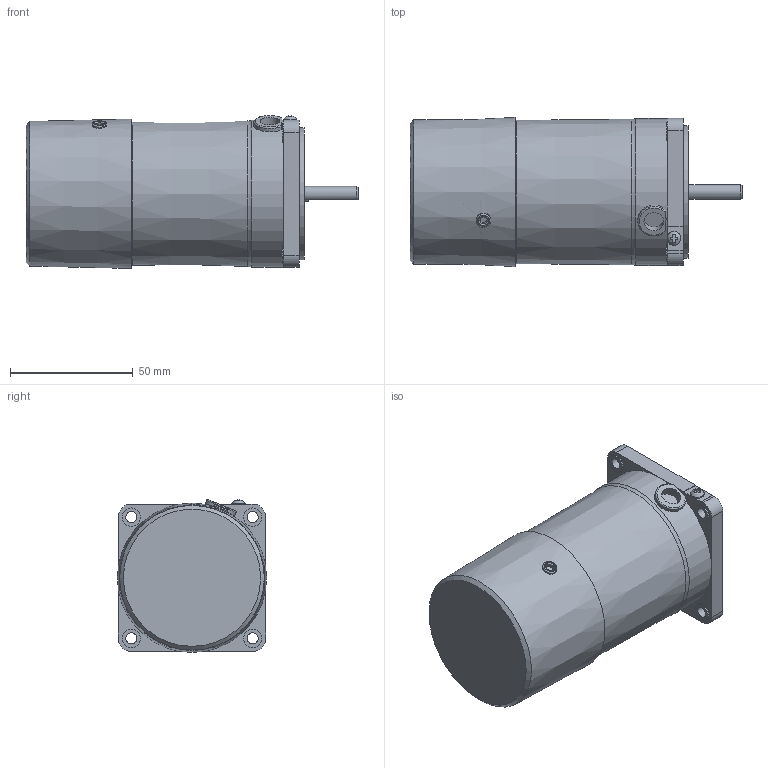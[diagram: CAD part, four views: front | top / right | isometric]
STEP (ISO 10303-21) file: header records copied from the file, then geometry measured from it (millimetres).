
FILE_DESCRIPTION(/* description */ (''),/* implementation_level */ '2;1');
FILE_NAME(/* name */ 'E:\도면작업\2016\0704) 미주향 SG 도면\3D MOTOR\ELECTROMAGNETIC BRAKE\SG6R06D_-E.stp',/* time_stamp */ '2017-03-21T13:49:40+09:00',/* author */ ('jy-jung'),/* organization */ (''),/* preprocessor_version */ 'ST-DEVELOPER v15.6',/* originating_system */ 'Autodesk Inventor 2015',/* authorisation */ '');
FILE_SCHEMA (('AUTOMOTIVE_DESIGN { 1 0 10303 214 3 1 1 }'));
Length unit declared in the file: millimetre
Products named in the file (1): 부품23
Bounding box: 135.5 x 60.94 x 62.38 mm (x, y, z)
Volume: 313966.3 mm3; surface area: 31240.6 mm2
Topology: 1 solids, 3 shells, 115 faces, 290 edges, 190 vertices
Faces by surface type: plane 68, cylinder 37, cone 5, torus 4, bspline 1
Full cylindrical faces by diameter (mm): 3.1 x1, 4.5 x4, 4.6 x1, 5 x1, 5.6 x1, 6 x2, 7.5 x4, 8 x1, 10.1 x1, 25 x1, 54 x1, 58.5 x1, 60 x1
Entity records: 3684 total; most frequent: CARTESIAN_POINT 847, DIRECTION 551, ORIENTED_EDGE 512, EDGE_CURVE 256, AXIS2_PLACEMENT_3D 209, VERTEX_POINT 182, EDGE_LOOP 166, LINE 133
